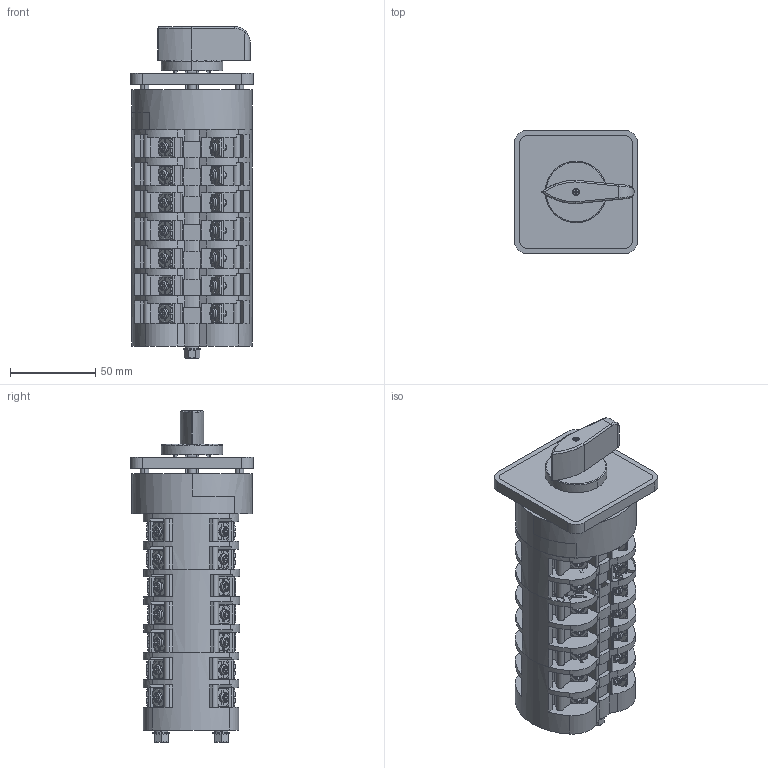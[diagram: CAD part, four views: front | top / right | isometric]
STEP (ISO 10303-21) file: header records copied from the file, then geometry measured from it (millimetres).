
FILE_DESCRIPTION((''),'2;1');
FILE_NAME('2470000100_SW0001','2025-04-08T',('sipei.wu'),(''),'PRO/ENGINEER BY PARAMETRIC TECHNOLOGY CORPORATION, 2015440','PRO/ENGINEER BY PARAMETRIC TECHNOLOGY CORPORATION, 2015440','');
FILE_SCHEMA(('CONFIG_CONTROL_DESIGN'));
Products named in the file (1): 2470000100_SW0001
Bounding box: 72 x 72 x 194.33 mm (x, y, z)
Volume: 435028.6 mm3; surface area: 133469.6 mm2
Topology: 1 solids, 42 shells, 5104 faces, 14460 edges, 9284 vertices
Faces by surface type: plane 3437, cylinder 1326, cone 152, torus 126, sphere 58, bspline 5
Entity records: 168413 total; most frequent: CARTESIAN_POINT 34209, ORIENTED_EDGE 28920, DIRECTION 27299, EDGE_CURVE 14460, VECTOR 10105, LINE 10105, VERTEX_POINT 9284, AXIS2_PLACEMENT_3D 8597
